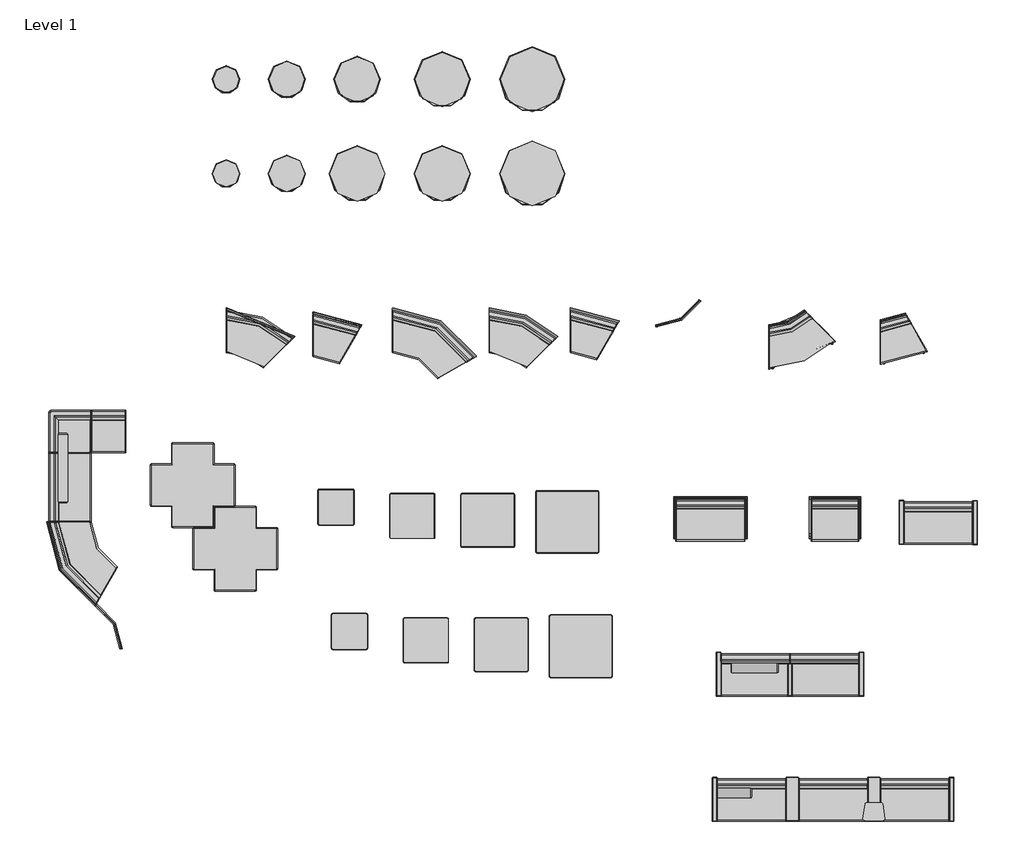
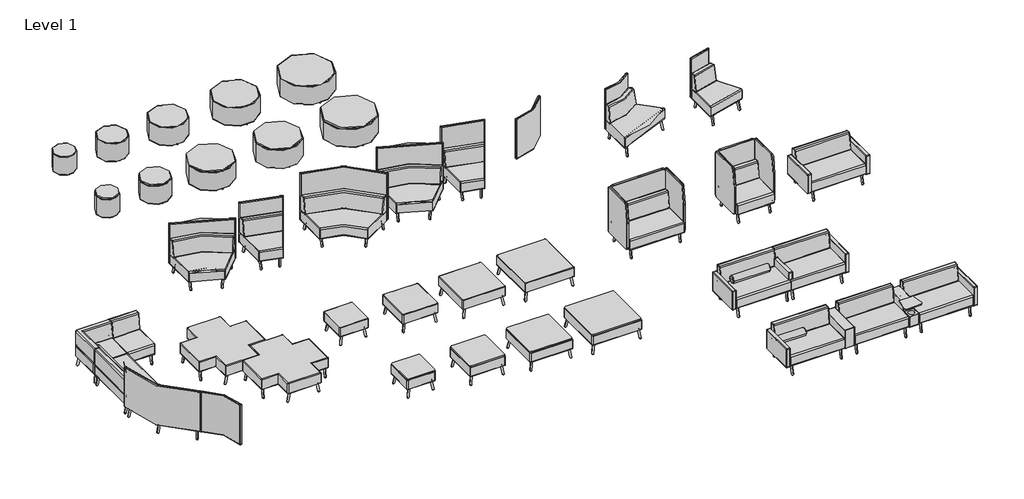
# One storey, incomplete: 61 furniture elements.
"""IFC4 building model written with IfcOpenShell, lengths in millimetres."""

from ifc_helpers import new_model, si_unit, origin, place, context, project, spatial, transform, mapped, element, save
from components import furniture_1200_4850fa3a, furniture_1200_cece1507, furniture_1204_c5cfecb2, furniture_1204_9d9a843b, furniture_1204_0de081f7, furniture_1204_49065b5f, furniture_1212_c9eec584, furniture_1212_14c63a1d, furniture_1213_b8046dc8, furniture_1213_8662ca24, furniture_1214_7c59c296, furniture_1214_cdc57468, furniture_1215_0016b4f5, furniture_1215_f6887f57, furniture_1216_0804f7a7, furniture_1216_b5371cae, furniture_1218_1c4b5840, furniture_1218_6a8e717b, furniture_1219_22_a1547cf1, furniture_1219_30_bc7b73fd, furniture_1219_44_79f136f0, furniture_1222_d6062fc0, furniture_1222_aee030c2, furniture_1222_0b3f2822, furniture_1224_862a0234, furniture_1224_c7c1a432, furniture_1224_18ffa4c7, furniture_1225_1819fbd6, furniture_1225_f7da2884, furniture_1237nl_29a3fee9, furniture_1237nlt_2b8f820f, furniture_1238nl_96f94360, furniture_1238nlt_c17ac9a5, furniture_1240nl_d53e7f1e, furniture_1242nl_7c49e083, furniture_1242nlt_74572b88, furniture_1244nl_43deeb9b, furniture_1244nlt_2f33470e, furniture_1246_e8551991, furniture_1246t_65d32d9d, furniture_1248_87769bc4, furniture_1248t_9be65b18, furniture_1250_eddf934c, furniture_1250t_16d70e3b, furniture_1252_8d231d5f, furniture_1252t_70c4c174, furniture_1259c_09073cc4, furniture_1259l_e881bb67, furniture_1259l_694d9429, furniture_1259r_cefcaaf9, furniture_1260c_ce64365a, furniture_1260tc_43bf5e02, furniture_1270_30_a5e9e99b, furniture_1270_45_ef554d54, furniture_1270_60_1ddb8be8, furniture_1274_30_ad6ad9e1, furniture_1274_45_6280a310, furniture_1274_60_47fa7cde, furniture_1276_30_48e96566, furniture_1276_45_0a47ef88, furniture_1276_60_846af10f

model = new_model("IFC4")

# Units and contexts
model_context = context("Model", 3, world=origin())
ifc_project = project(units=[si_unit("LENGTHUNIT", "METRE", prefix="MILLI")], contexts=[model_context])

# Site, building, storey
site = spatial("IfcSite", under=ifc_project)
building = spatial("IfcBuilding", under=site)
storey = spatial("IfcBuildingStorey", under=building, Name="Level 1", Elevation=0.0)

# Furniture
placement = place(None, origin())
furniture_1200_shape = furniture_1200_4850fa3a(model_context)
furniture_1200_2_shape = furniture_1200_cece1507(model_context)
element("IfcFurniture", 1, ObjectType="Laguna-Modular-Straight-ERG : 1200", at=placement, inside=storey, context=model_context, shape_type="MappedRepresentation", body=[
    mapped(furniture_1200_shape, transform((-6496.0794688, 2142.6277078, 0.0), x_axis=(1.0, 0.0, 0.0), y_axis=(0.0, 1.0, 0.0), z_axis=(0.0, 0.0, 1.0))),
    mapped(furniture_1200_2_shape, transform((-6496.0794688, 2142.6277078, 0.0), x_axis=(1.0, 0.0, 0.0), y_axis=(0.0, 1.0, 0.0), z_axis=(0.0, 0.0, 1.0))),
])
furniture_1204_shape = furniture_1204_c5cfecb2(model_context)
furniture_1204_2_shape = furniture_1204_9d9a843b(model_context)
element("IfcFurniture", 2, ObjectType="Laguna-Modular-Straight-ERG : 1204", at=placement, inside=storey, context=model_context, shape_type="MappedRepresentation", body=[
    mapped(furniture_1204_shape, transform((-10610.4657949, 6236.1257343, 0.0), x_axis=(0.0, 1.0000000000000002, 0.0), y_axis=(-1.0000000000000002, 0.0, 0.0), z_axis=(0.0, 0.0, 1.0))),
    mapped(furniture_1204_2_shape, transform((-10610.4657949, 6236.1257343, 0.0), x_axis=(0.0, 1.0000000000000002, 0.0), y_axis=(-1.0000000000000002, 0.0, 0.0), z_axis=(0.0, 0.0, 1.0))),
])
element("IfcFurniture", 3, ObjectType="Laguna-Modular-Straight-ERG : 1204", at=placement, inside=storey, context=model_context, shape_type="MappedRepresentation", body=[
    mapped(furniture_1204_shape, transform((6655.9151494, 661.610973, 0.0), x_axis=(1.0000000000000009, 0.0, 0.0), y_axis=(0.0, 1.0000000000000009, 0.0), z_axis=(0.0, 0.0, 1.0))),
    mapped(furniture_1204_2_shape, transform((6655.9151494, 661.610973, 0.0), x_axis=(1.0000000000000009, 0.0, 0.0), y_axis=(0.0, 1.0000000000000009, 0.0), z_axis=(0.0, 0.0, 1.0))),
])
element("IfcFurniture", 4, ObjectType="Laguna-Modular-Straight-ERG : 1204", at=placement, inside=storey, context=model_context, shape_type="MappedRepresentation", body=[
    mapped(furniture_1204_shape, transform((3696.9446662, -1796.6686374, 0.0), x_axis=(1.0000000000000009, 0.0, 0.0), y_axis=(0.0, 1.0000000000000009, 0.0), z_axis=(0.0, 0.0, 1.0))),
    mapped(furniture_1204_2_shape, transform((3696.9446662, -1796.6686374, 0.0), x_axis=(1.0000000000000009, 0.0, 0.0), y_axis=(0.0, 1.0000000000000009, 0.0), z_axis=(0.0, 0.0, 1.0))),
])
element("IfcFurniture", 5, ObjectType="Laguna-Modular-Straight-ERG : 1204", at=placement, inside=storey, context=model_context, shape_type="MappedRepresentation", body=[
    mapped(furniture_1204_shape, transform((3633.9936379, -3822.6742419, 0.0), x_axis=(1.0000000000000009, 0.0, 0.0), y_axis=(0.0, 1.0000000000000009, 0.0), z_axis=(0.0, 0.0, 1.0))),
    mapped(furniture_1204_2_shape, transform((3633.9936379, -3822.6742419, 0.0), x_axis=(1.0000000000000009, 0.0, 0.0), y_axis=(0.0, 1.0000000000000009, 0.0), z_axis=(0.0, 0.0, 1.0))),
])
element("IfcFurniture", 6, ObjectType="Laguna-Modular-Straight-ERG : 1204", at=placement, inside=storey, context=model_context, shape_type="MappedRepresentation", body=[
    mapped(furniture_1204_shape, transform((6275.5936379, -3822.6742419, 0.0), x_axis=(1.0000000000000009, 0.0, 0.0), y_axis=(0.0, 1.0000000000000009, 0.0), z_axis=(0.0, 0.0, 1.0))),
    mapped(furniture_1204_2_shape, transform((6275.5936379, -3822.6742419, 0.0), x_axis=(1.0000000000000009, 0.0, 0.0), y_axis=(0.0, 1.0000000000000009, 0.0), z_axis=(0.0, 0.0, 1.0))),
])
furniture_1204_3_shape = furniture_1204_0de081f7(model_context)
furniture_1204_4_shape = furniture_1204_49065b5f(model_context)
element("IfcFurniture", 7, ObjectType="Laguna-Modular-Straight-ERG : 1204", at=placement, inside=storey, context=model_context, shape_type="MappedRepresentation", body=[
    mapped(furniture_1204_3_shape, transform((-3393.3396864, -1796.6686374, 0.0), x_axis=(-1.0000000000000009, 0.0, 0.0), y_axis=(0.0, -1.0000000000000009, 0.0), z_axis=(0.0, 0.0, 1.0))),
    mapped(furniture_1204_4_shape, transform((-3393.3396864, -1796.6686374, 0.0), x_axis=(-1.0000000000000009, 0.0, 0.0), y_axis=(0.0, -1.0000000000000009, 0.0), z_axis=(0.0, 0.0, 1.0))),
])
element("IfcFurniture", 8, ObjectType="Laguna-Modular-Straight-ERG : 1204", at=placement, inside=storey, context=model_context, shape_type="MappedRepresentation", body=[
    mapped(furniture_1204_3_shape, transform((-3253.0907147, -3822.6742419, 0.0), x_axis=(-1.0000000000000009, 0.0, 0.0), y_axis=(0.0, -1.0000000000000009, 0.0), z_axis=(0.0, 0.0, 1.0))),
    mapped(furniture_1204_4_shape, transform((-3253.0907147, -3822.6742419, 0.0), x_axis=(-1.0000000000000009, 0.0, 0.0), y_axis=(0.0, -1.0000000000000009, 0.0), z_axis=(0.0, 0.0, 1.0))),
])
furniture_1212_shape = furniture_1212_c9eec584(model_context)
furniture_1212_2_shape = furniture_1212_14c63a1d(model_context)
element("IfcFurniture", 9, ObjectType="Laguna-Modular-Inside_Curve-ERG : 1212", at=placement, inside=storey, context=model_context, shape_type="MappedRepresentation", body=[
    mapped(furniture_1212_shape, transform((-2736.6587699, 3473.9324133, 0.0), x_axis=(1.0, 0.0, 0.0), y_axis=(0.0, 1.0, 0.0), z_axis=(0.0, 0.0, 1.0))),
    mapped(furniture_1212_2_shape, transform((-2736.6587699, 3473.9324133, 0.0), x_axis=(1.0, 0.0, 0.0), y_axis=(0.0, 1.0, 0.0), z_axis=(0.0, 0.0, 1.0))),
])
element("IfcFurniture", 10, ObjectType="Laguna-Modular-Inside_Curve-ERG : 1212", at=placement, inside=storey, context=model_context, shape_type="MappedRepresentation", body=[
    mapped(furniture_1212_shape, transform((1428.9412301, 3538.6376389, 0.0), x_axis=(1.0, 0.0, 0.0), y_axis=(0.0, 1.0, 0.0), z_axis=(0.0, 0.0, 1.0))),
    mapped(furniture_1212_2_shape, transform((1428.9412301, 3538.6376389, 0.0), x_axis=(1.0, 0.0, 0.0), y_axis=(0.0, 1.0, 0.0), z_axis=(0.0, 0.0, 1.0))),
])
furniture_1213_shape = furniture_1213_b8046dc8(model_context)
furniture_1213_2_shape = furniture_1213_8662ca24(model_context)
element("IfcFurniture", 11, ObjectType="Laguna-Modular-Outside_Curve-ERG : 1213", at=placement, inside=storey, context=model_context, shape_type="MappedRepresentation", body=[
    mapped(furniture_1213_shape, transform((6316.4531196, 3807.3643246, 0.0), x_axis=(1.0000000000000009, 0.0, 0.0), y_axis=(0.0, 1.0000000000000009, 0.0), z_axis=(0.0, 0.0, 1.0))),
    mapped(furniture_1213_2_shape, transform((6316.4531196, 3807.3643246, 0.0), x_axis=(1.0000000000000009, 0.0, 0.0), y_axis=(0.0, 1.0000000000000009, 0.0), z_axis=(0.0, 0.0, 1.0))),
])
furniture_1214_shape = furniture_1214_7c59c296(model_context)
furniture_1214_2_shape = furniture_1214_cdc57468(model_context)
element("IfcFurniture", 12, ObjectType="Laguna-Modular-Inside_Curve-ERG : 1214", at=placement, inside=storey, context=model_context, shape_type="MappedRepresentation", body=[
    mapped(furniture_1214_shape, transform((-4140.5267063, 3538.6376389, 0.0), x_axis=(1.0, 0.0, 0.0), y_axis=(0.0, 1.0, 0.0), z_axis=(0.0, 0.0, 1.0))),
    mapped(furniture_1214_2_shape, transform((-4140.5267063, 3538.6376389, 0.0), x_axis=(1.0, 0.0, 0.0), y_axis=(0.0, 1.0, 0.0), z_axis=(0.0, 0.0, 1.0))),
])
element("IfcFurniture", 13, ObjectType="Laguna-Modular-Inside_Curve-ERG : 1214", at=placement, inside=storey, context=model_context, shape_type="MappedRepresentation", body=[
    mapped(furniture_1214_shape, transform((114.0429788, 3538.6376389, 0.0), x_axis=(1.0, 0.0, 0.0), y_axis=(0.0, 1.0, 0.0), z_axis=(0.0, 0.0, 1.0))),
    mapped(furniture_1214_2_shape, transform((114.0429788, 3538.6376389, 0.0), x_axis=(1.0, 0.0, 0.0), y_axis=(0.0, 1.0, 0.0), z_axis=(0.0, 0.0, 1.0))),
])
furniture_1215_shape = furniture_1215_0016b4f5(model_context)
furniture_1215_2_shape = furniture_1215_f6887f57(model_context)
element("IfcFurniture", 14, ObjectType="Laguna-Modular-Outside_Curve-ERG : 1215", at=placement, inside=storey, context=model_context, shape_type="MappedRepresentation", body=[
    mapped(furniture_1215_shape, transform((4513.0531196, 3731.1643246, 0.0), x_axis=(1.0000000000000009, 0.0, 0.0), y_axis=(0.0, 1.0000000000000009, 0.0), z_axis=(0.0, 0.0, 1.0))),
    mapped(furniture_1215_2_shape, transform((4513.0531196, 3731.1643246, 0.0), x_axis=(1.0000000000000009, 0.0, 0.0), y_axis=(0.0, 1.0000000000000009, 0.0), z_axis=(0.0, 0.0, 1.0))),
])
furniture_1216_shape = furniture_1216_0804f7a7(model_context)
furniture_1216_2_shape = furniture_1216_b5371cae(model_context)
element("IfcFurniture", 15, ObjectType="Laguna-Modular-Inside_Curve-ERG : 1216", at=placement, inside=storey, context=model_context, shape_type="MappedRepresentation", body=[
    mapped(furniture_1216_shape, transform((-14533.6269084, 3927.9817824, 0.0), x_axis=(-0.86602540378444, 0.5, 0.0), y_axis=(-0.5, -0.86602540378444, 0.0), z_axis=(0.0, 0.0, 1.0))),
    mapped(furniture_1216_2_shape, transform((-14533.6269084, 3927.9817824, 0.0), x_axis=(-0.86602540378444, 0.5, 0.0), y_axis=(-0.5, -0.86602540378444, 0.0), z_axis=(0.0, 0.0, 1.0))),
])
element("IfcFurniture", 16, ObjectType="Laguna-Modular-Inside_Curve-ERG : 1216", at=placement, inside=storey, context=model_context, shape_type="MappedRepresentation", body=[
    mapped(furniture_1216_shape, transform((-1450.6779228, 3538.6376389, 0.0), x_axis=(1.0, 0.0, 0.0), y_axis=(0.0, 1.0, 0.0), z_axis=(0.0, 0.0, 1.0))),
    mapped(furniture_1216_2_shape, transform((-1450.6779228, 3538.6376389, 0.0), x_axis=(1.0, 0.0, 0.0), y_axis=(0.0, 1.0, 0.0), z_axis=(0.0, 0.0, 1.0))),
])
furniture_1218_shape = furniture_1218_1c4b5840(model_context)
furniture_1218_2_shape = furniture_1218_6a8e717b(model_context)
element("IfcFurniture", 17, ObjectType="Laguna-Modular-Corner_Unit-ERG : 1218", at=placement, inside=storey, context=model_context, shape_type="MappedRepresentation", body=[
    mapped(furniture_1218_shape, transform((-7181.8794688, 2142.6277078, 0.0), x_axis=(1.0, 0.0, 0.0), y_axis=(0.0, 1.0, 0.0), z_axis=(0.0, 0.0, 1.0))),
    mapped(furniture_1218_2_shape, transform((-7181.8794688, 2142.6277078, 0.0), x_axis=(1.0, 0.0, 0.0), y_axis=(0.0, 1.0, 0.0), z_axis=(0.0, 0.0, 1.0))),
])
furniture_1219_22_shape = furniture_1219_22_a1547cf1(model_context)
element("IfcFurniture", 18, ObjectType="Laguna-Bolster-Pillow-ERG : 1219-22", at=placement, inside=storey, context=model_context, shape_type="MappedRepresentation", body=[
    mapped(furniture_1219_22_shape, transform((3633.9936379, -3822.6742419, 0.0), x_axis=(1.0000000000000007, 0.0, 0.0), y_axis=(0.0, 1.0000000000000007, 0.0), z_axis=(0.0, 0.0, 1.0))),
])
furniture_1219_30_shape = furniture_1219_30_bc7b73fd(model_context)
element("IfcFurniture", 19, ObjectType="Laguna-Bolster-Pillow-ERG : 1219-30", at=placement, inside=storey, context=model_context, shape_type="MappedRepresentation", body=[
    mapped(furniture_1219_30_shape, transform((3863.2422023, -1796.6686374, 0.0), x_axis=(1.0000000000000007, 0.0, 0.0), y_axis=(0.0, 1.0000000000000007, 0.0), z_axis=(0.0, 0.0, 1.0))),
])
furniture_1219_44_shape = furniture_1219_44_79f136f0(model_context)
element("IfcFurniture", 20, ObjectType="Laguna-Bolster-Pillow-ERG : 1219-44", at=placement, inside=storey, context=model_context, shape_type="MappedRepresentation", body=[
    mapped(furniture_1219_44_shape, transform((-10610.4657949, 6548.599461, 0.0), x_axis=(0.0, 1.0000000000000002, 0.0), y_axis=(-1.0000000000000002, 0.0, 0.0), z_axis=(0.0, 0.0, 1.0))),
])
furniture_1222_shape = furniture_1222_d6062fc0(model_context)
furniture_1222_2_shape = furniture_1222_aee030c2(model_context)
furniture_1222_3_shape = furniture_1222_0b3f2822(model_context)
element("IfcFurniture", 21, ObjectType="Laguna-Modular-Hideout-ERG : 1222", at=placement, inside=storey, context=model_context, shape_type="MappedRepresentation", body=[
    mapped(furniture_1222_shape, transform((5124.1720291, 706.8316697, 0.0), x_axis=(1.0, 0.0, 0.0), y_axis=(0.0, 1.0, 0.0), z_axis=(0.0, 0.0, 1.0))),
    mapped(furniture_1222_2_shape, transform((5124.1720291, 706.8316697, 0.0), x_axis=(1.0, 0.0, 0.0), y_axis=(0.0, 1.0, 0.0), z_axis=(0.0, 0.0, 1.0))),
    mapped(furniture_1222_3_shape, transform((5124.1720291, 706.8316697, 0.0), x_axis=(1.0, 0.0, 0.0), y_axis=(0.0, 1.0, 0.0), z_axis=(0.0, 0.0, 1.0))),
])
furniture_1224_shape = furniture_1224_862a0234(model_context)
furniture_1224_2_shape = furniture_1224_c7c1a432(model_context)
furniture_1224_3_shape = furniture_1224_18ffa4c7(model_context)
element("IfcFurniture", 22, ObjectType="Laguna-Modular-Hideout-ERG : 1224", at=placement, inside=storey, context=model_context, shape_type="MappedRepresentation", body=[
    mapped(furniture_1224_shape, transform((2929.6779026, 706.8316697, 0.0), x_axis=(1.0, 0.0, 0.0), y_axis=(0.0, 1.0, 0.0), z_axis=(0.0, 0.0, 1.0))),
    mapped(furniture_1224_2_shape, transform((2929.6779026, 706.8316697, 0.0), x_axis=(1.0, 0.0, 0.0), y_axis=(0.0, 1.0, 0.0), z_axis=(0.0, 0.0, 1.0))),
    mapped(furniture_1224_3_shape, transform((2929.6779026, 706.8316697, 0.0), x_axis=(1.0, 0.0, 0.0), y_axis=(0.0, 1.0, 0.0), z_axis=(0.0, 0.0, 1.0))),
])
furniture_1225_shape = furniture_1225_1819fbd6(model_context)
furniture_1225_2_shape = furniture_1225_f7da2884(model_context)
element("IfcFurniture", 23, ObjectType="Laguna-Quattro_Backless-ERG : 1225", at=placement, inside=storey, context=model_context, shape_type="MappedRepresentation", body=[
    mapped(furniture_1225_shape, transform((-5367.2292845, 1391.8487351, 0.0), x_axis=(1.0, 0.0, 0.0), y_axis=(0.0, 1.0, 0.0), z_axis=(0.0, 0.0, 1.0))),
    mapped(furniture_1225_2_shape, transform((-5367.2292845, 1391.8487351, 0.0), x_axis=(1.0, 0.0, 0.0), y_axis=(0.0, 1.0, 0.0), z_axis=(0.0, 0.0, 1.0))),
])
element("IfcFurniture", 24, ObjectType="Laguna-Quattro_Backless-ERG : 1225", at=placement, inside=storey, context=model_context, shape_type="MappedRepresentation", body=[
    mapped(furniture_1225_shape, transform((-4681.4292845, 363.1487351, 0.0), x_axis=(1.0, 0.0, 0.0), y_axis=(0.0, 1.0, 0.0), z_axis=(0.0, 0.0, 1.0))),
    mapped(furniture_1225_2_shape, transform((-4681.4292845, 363.1487351, 0.0), x_axis=(1.0, 0.0, 0.0), y_axis=(0.0, 1.0, 0.0), z_axis=(0.0, 0.0, 1.0))),
])
furniture_1237nl_shape = furniture_1237nl_29a3fee9(model_context)
element("IfcFurniture", 25, ObjectType="Laguna-Round_Ottomans-No_Legs-ERG : 1237NL", at=placement, inside=storey, context=model_context, shape_type="MappedRepresentation", body=[
    mapped(furniture_1237nl_shape, transform((-4312.710601, 7499.813913, 0.0), x_axis=(1.0, 0.0, 0.0), y_axis=(0.0, 1.0, 0.0), z_axis=(0.0, 0.0, 1.0))),
])
furniture_1237nlt_shape = furniture_1237nlt_2b8f820f(model_context)
element("IfcFurniture", 26, ObjectType="Laguna-Round_Ottomans-No_Legs-ERG : 1237NLT", at=placement, inside=storey, context=model_context, shape_type="MappedRepresentation", body=[
    mapped(furniture_1237nlt_shape, transform((-4312.710601, 5975.813913, 0.0), x_axis=(1.0, 0.0, 0.0), y_axis=(0.0, 1.0, 0.0), z_axis=(0.0, 0.0, 1.0))),
])
furniture_1238nl_shape = furniture_1238nl_96f94360(model_context)
element("IfcFurniture", 27, ObjectType="Laguna-Round_Ottomans-No_Legs-ERG : 1238NL", at=placement, inside=storey, context=model_context, shape_type="MappedRepresentation", body=[
    mapped(furniture_1238nl_shape, transform((-3330.9690679, 7499.813913, 0.0), x_axis=(1.0, 0.0, 0.0), y_axis=(0.0, 1.0, 0.0), z_axis=(0.0, 0.0, 1.0))),
])
furniture_1238nlt_shape = furniture_1238nlt_c17ac9a5(model_context)
element("IfcFurniture", 28, ObjectType="Laguna-Round_Ottomans-No_Legs-ERG : 1238NLT", at=placement, inside=storey, context=model_context, shape_type="MappedRepresentation", body=[
    mapped(furniture_1238nlt_shape, transform((-3330.9690679, 5975.813913, 0.0), x_axis=(1.0, 0.0, 0.0), y_axis=(0.0, 1.0, 0.0), z_axis=(0.0, 0.0, 1.0))),
])
furniture_1240nl_shape = furniture_1240nl_d53e7f1e(model_context)
element("IfcFurniture", 29, ObjectType="Laguna-Round_Ottomans-No_Legs-ERG : 1240NL", at=placement, inside=storey, context=model_context, shape_type="MappedRepresentation", body=[
    mapped(furniture_1240nl_shape, transform((-2192.5056926, 7499.813913, 0.0), x_axis=(1.0, 0.0, 0.0), y_axis=(0.0, 1.0, 0.0), z_axis=(0.0, 0.0, 1.0))),
])
furniture_1242nl_shape = furniture_1242nl_7c49e083(model_context)
element("IfcFurniture", 30, ObjectType="Laguna-Round_Ottomans-No_Legs-ERG : 1242NL", at=placement, inside=storey, context=model_context, shape_type="MappedRepresentation", body=[
    mapped(furniture_1242nl_shape, transform((-815.751143, 7499.813913, 0.0), x_axis=(1.0, 0.0, 0.0), y_axis=(0.0, 1.0, 0.0), z_axis=(0.0, 0.0, 1.0))),
])
furniture_1242nlt_shape = furniture_1242nlt_74572b88(model_context)
element("IfcFurniture", 31, ObjectType="Laguna-Round_Ottomans-No_Legs-ERG : 1242NLT", at=placement, inside=storey, context=model_context, shape_type="MappedRepresentation", body=[
    mapped(furniture_1242nlt_shape, transform((-2192.5056926, 5975.813913, 0.0), x_axis=(1.0, 0.0, 0.0), y_axis=(0.0, 1.0, 0.0), z_axis=(0.0, 0.0, 1.0))),
])
element("IfcFurniture", 32, ObjectType="Laguna-Round_Ottomans-No_Legs-ERG : 1242NLT", at=placement, inside=storey, context=model_context, shape_type="MappedRepresentation", body=[
    mapped(furniture_1242nlt_shape, transform((-815.751143, 5975.813913, 0.0), x_axis=(1.0, 0.0, 0.0), y_axis=(0.0, 1.0, 0.0), z_axis=(0.0, 0.0, 1.0))),
])
furniture_1244nl_shape = furniture_1244nl_43deeb9b(model_context)
element("IfcFurniture", 33, ObjectType="Laguna-Round_Ottomans-No_Legs-ERG : 1244NL", at=placement, inside=storey, context=model_context, shape_type="MappedRepresentation", body=[
    mapped(furniture_1244nl_shape, transform((643.1663492, 7499.813913, 0.0), x_axis=(1.0, 0.0, 0.0), y_axis=(0.0, 1.0, 0.0), z_axis=(0.0, 0.0, 1.0))),
])
furniture_1244nlt_shape = furniture_1244nlt_2f33470e(model_context)
element("IfcFurniture", 34, ObjectType="Laguna-Round_Ottomans-No_Legs-ERG : 1244NLT", at=placement, inside=storey, context=model_context, shape_type="MappedRepresentation", body=[
    mapped(furniture_1244nlt_shape, transform((643.1663492, 5975.813913, 0.0), x_axis=(1.0, 0.0, 0.0), y_axis=(0.0, 1.0, 0.0), z_axis=(0.0, 0.0, 1.0))),
])
furniture_1246_shape = furniture_1246_e8551991(model_context)
element("IfcFurniture", 35, ObjectType="Laguna-Square_Ottomans-With_Legs-ERG : 1246", at=placement, inside=storey, context=model_context, shape_type="MappedRepresentation", body=[
    mapped(furniture_1246_shape, transform((-2839.361305, 881.0897472, 0.0), x_axis=(1.0, 0.0, 0.0), y_axis=(0.0, 1.0, 0.0), z_axis=(0.0, 0.0, 1.0))),
])
furniture_1246t_shape = furniture_1246t_65d32d9d(model_context)
element("IfcFurniture", 36, ObjectType="Laguna-Square_Ottomans-With_Legs-ERG : 1246T", at=placement, inside=storey, context=model_context, shape_type="MappedRepresentation", body=[
    mapped(furniture_1246t_shape, transform((-2620.7018499, -1131.8510748, 0.0), x_axis=(1.0, 0.0, 0.0), y_axis=(0.0, 1.0, 0.0), z_axis=(0.0, 0.0, 1.0))),
])
furniture_1248_shape = furniture_1248_87769bc4(model_context)
element("IfcFurniture", 37, ObjectType="Laguna-Square_Ottomans-With_Legs-ERG : 1248", at=placement, inside=storey, context=model_context, shape_type="MappedRepresentation", body=[
    mapped(furniture_1248_shape, transform((-1603.1969102, 739.2447986, 0.0), x_axis=(1.0, 0.0, 0.0), y_axis=(0.0, 1.0, 0.0), z_axis=(0.0, 0.0, 1.0))),
])
furniture_1248t_shape = furniture_1248t_9be65b18(model_context)
element("IfcFurniture", 38, ObjectType="Laguna-Square_Ottomans-With_Legs-ERG : 1248T", at=placement, inside=storey, context=model_context, shape_type="MappedRepresentation", body=[
    mapped(furniture_1248t_shape, transform((-1384.5374552, -1273.6960234, 0.0), x_axis=(1.0, 0.0, 0.0), y_axis=(0.0, 1.0, 0.0), z_axis=(0.0, 0.0, 1.0))),
])
furniture_1250_shape = furniture_1250_eddf934c(model_context)
element("IfcFurniture", 39, ObjectType="Laguna-Square_Ottomans-With_Legs-ERG : 1250", at=placement, inside=storey, context=model_context, shape_type="MappedRepresentation", body=[
    mapped(furniture_1250_shape, transform((-381.3014057, 665.927899, 0.0), x_axis=(1.0, 0.0, 0.0), y_axis=(0.0, 1.0, 0.0), z_axis=(0.0, 0.0, 1.0))),
])
furniture_1250t_shape = furniture_1250t_16d70e3b(model_context)
element("IfcFurniture", 40, ObjectType="Laguna-Square_Ottomans-With_Legs-ERG : 1250T", at=placement, inside=storey, context=model_context, shape_type="MappedRepresentation", body=[
    mapped(furniture_1250t_shape, transform((-162.6419507, -1347.012923, 0.0), x_axis=(1.0, 0.0, 0.0), y_axis=(0.0, 1.0, 0.0), z_axis=(0.0, 0.0, 1.0))),
])
furniture_1252_shape = furniture_1252_8d231d5f(model_context)
element("IfcFurniture", 41, ObjectType="Laguna-Square_Ottomans-With_Legs-ERG : 1252", at=placement, inside=storey, context=model_context, shape_type="MappedRepresentation", body=[
    mapped(furniture_1252_shape, transform((905.8852614, 642.3641606, 0.0), x_axis=(1.0, 0.0, 0.0), y_axis=(0.0, 1.0, 0.0), z_axis=(0.0, 0.0, 1.0))),
])
furniture_1252t_shape = furniture_1252t_70c4c174(model_context)
element("IfcFurniture", 42, ObjectType="Laguna-Square_Ottomans-With_Legs-ERG : 1252T", at=placement, inside=storey, context=model_context, shape_type="MappedRepresentation", body=[
    mapped(furniture_1252t_shape, transform((1124.5447164, -1370.5766614, 0.0), x_axis=(1.0, 0.0, 0.0), y_axis=(0.0, 1.0, 0.0), z_axis=(0.0, 0.0, 1.0))),
])
furniture_1259c_shape = furniture_1259c_09073cc4(model_context)
element("IfcFurniture", 43, ObjectType="Laguna-Arm-Slim-ERG : 1259C", at=placement, inside=storey, context=model_context, shape_type="MappedRepresentation", body=[
    mapped(furniture_1259c_shape, transform((-4510.9396864, -1796.6686374, 0.0), x_axis=(-1.0, 0.0, 0.0), y_axis=(0.0, -1.0, 0.0), z_axis=(0.0, 0.0, 1.0))),
])
furniture_1259l_shape = furniture_1259l_e881bb67(model_context)
element("IfcFurniture", 44, ObjectType="Laguna-Arm-Slim-ERG : 1259L", at=placement, inside=storey, context=model_context, shape_type="MappedRepresentation", body=[
    mapped(furniture_1259l_shape, transform((6655.9151494, 661.610973, 0.0), x_axis=(1.0, 0.0, 0.0), y_axis=(0.0, 1.0, 0.0), z_axis=(0.0, 0.0, 1.0))),
])
element("IfcFurniture", 45, ObjectType="Laguna-Arm-Slim-ERG : 1259L", at=placement, inside=storey, context=model_context, shape_type="MappedRepresentation", body=[
    mapped(furniture_1259l_shape, transform((3696.9446662, -1796.6686374, 0.0), x_axis=(1.0, 0.0, 0.0), y_axis=(0.0, 1.0, 0.0), z_axis=(0.0, 0.0, 1.0))),
])
element("IfcFurniture", 46, ObjectType="Laguna-Arm-Slim-ERG : 1259L", at=placement, inside=storey, context=model_context, shape_type="MappedRepresentation", body=[
    mapped(furniture_1259l_shape, transform((3633.9936379, -3822.6742419, 0.0), x_axis=(1.0, 0.0, 0.0), y_axis=(0.0, 1.0, 0.0), z_axis=(0.0, 0.0, 1.0))),
])
furniture_1259l_2_shape = furniture_1259l_694d9429(model_context)
element("IfcFurniture", 47, ObjectType="Laguna-Arm-Slim-ERG : 1259L", at=placement, inside=storey, context=model_context, shape_type="MappedRepresentation", body=[
    mapped(furniture_1259l_2_shape, transform((-1932.2907147, -3822.6742419, 0.0), x_axis=(-1.0, 0.0, 0.0), y_axis=(0.0, -1.0, 0.0), z_axis=(0.0, 0.0, 1.0))),
])
furniture_1259r_shape = furniture_1259r_cefcaaf9(model_context)
element("IfcFurniture", 48, ObjectType="Laguna-Arm-Slim-ERG : 1259R", at=placement, inside=storey, context=model_context, shape_type="MappedRepresentation", body=[
    mapped(furniture_1259r_shape, transform((7773.5151494, 655.260973, 0.0), x_axis=(1.0, 0.0, 0.0), y_axis=(0.0, 1.0, 0.0), z_axis=(0.0, 0.0, 1.0))),
])
element("IfcFurniture", 49, ObjectType="Laguna-Arm-Slim-ERG : 1259R", at=placement, inside=storey, context=model_context, shape_type="MappedRepresentation", body=[
    mapped(furniture_1259r_shape, transform((5932.1446662, -1796.6686374, 0.0), x_axis=(1.0, 0.0, 0.0), y_axis=(0.0, 1.0, 0.0), z_axis=(0.0, 0.0, 1.0))),
])
furniture_1260c_shape = furniture_1260c_ce64365a(model_context)
element("IfcFurniture", 50, ObjectType="Laguna-Box_Arm-ERG : 1260C", at=placement, inside=storey, context=model_context, shape_type="MappedRepresentation", body=[
    mapped(furniture_1260c_shape, transform((4954.7936379, -3822.6742419, 0.0), x_axis=(1.0, 0.0, 0.0), y_axis=(0.0, 1.0, 0.0), z_axis=(0.0, 0.0, 1.0))),
])
furniture_1260tc_shape = furniture_1260tc_43bf5e02(model_context)
element("IfcFurniture", 51, ObjectType="Laguna-Box_Arm-ERG : 1260TC", at=placement, inside=storey, context=model_context, shape_type="MappedRepresentation", body=[
    mapped(furniture_1260tc_shape, transform((6275.5936379, -3822.6742419, 0.0), x_axis=(1.0, 0.0, 0.0), y_axis=(0.0, 1.0, 0.0), z_axis=(0.0, 0.0, 1.0))),
])
furniture_1270_30_shape = furniture_1270_30_a5e9e99b(model_context)
element("IfcFurniture", 52, ObjectType="Laguna-Panel-Curve_Inside-ERG : 1270/30", at=placement, inside=storey, context=model_context, shape_type="MappedRepresentation", body=[
    mapped(furniture_1270_30_shape, transform((1428.9412301, 3538.6376389, 0.0), x_axis=(1.0, 0.0, 0.0), y_axis=(0.0, 1.0, 0.0), z_axis=(0.0, 0.0, 1.0))),
])
furniture_1270_45_shape = furniture_1270_45_ef554d54(model_context)
element("IfcFurniture", 53, ObjectType="Laguna-Panel-Curve_Inside-ERG : 1270/45", at=placement, inside=storey, context=model_context, shape_type="MappedRepresentation", body=[
    mapped(furniture_1270_45_shape, transform((114.0429788, 3538.6376389, 0.0), x_axis=(1.0, 0.0, 0.0), y_axis=(0.0, 1.0, 0.0), z_axis=(0.0, 0.0, 1.0))),
])
furniture_1270_60_shape = furniture_1270_60_1ddb8be8(model_context)
element("IfcFurniture", 54, ObjectType="Laguna-Panel-Curve_Inside-ERG : 1270/60", at=placement, inside=storey, context=model_context, shape_type="MappedRepresentation", body=[
    mapped(furniture_1270_60_shape, transform((-1450.6779228, 3538.6376389, 0.0), x_axis=(1.0, 0.0, 0.0), y_axis=(0.0, 1.0, 0.0), z_axis=(0.0, 0.0, 1.0))),
])
furniture_1274_30_shape = furniture_1274_30_ad6ad9e1(model_context)
element("IfcFurniture", 55, ObjectType="Laguna-Panel-Curve_Inside-ERG : 1274/30", at=placement, inside=storey, context=model_context, shape_type="MappedRepresentation", body=[
    mapped(furniture_1274_30_shape, transform((-2736.6587699, 3473.9324133, 0.0), x_axis=(1.0, 0.0, 0.0), y_axis=(0.0, 1.0, 0.0), z_axis=(0.0, 0.0, 1.0))),
])
furniture_1274_45_shape = furniture_1274_45_6280a310(model_context)
element("IfcFurniture", 56, ObjectType="Laguna-Panel-Curve_Inside-ERG : 1274/45", at=placement, inside=storey, context=model_context, shape_type="MappedRepresentation", body=[
    mapped(furniture_1274_45_shape, transform((-4140.5267063, 3538.6376389, 0.0), x_axis=(1.0, 0.0, 0.0), y_axis=(0.0, 1.0, 0.0), z_axis=(0.0, 0.0, 1.0))),
])
furniture_1274_60_shape = furniture_1274_60_47fa7cde(model_context)
element("IfcFurniture", 57, ObjectType="Laguna-Panel-Curve_Inside-ERG : 1274/60", at=placement, inside=storey, context=model_context, shape_type="MappedRepresentation", body=[
    mapped(furniture_1274_60_shape, transform((-14533.6269084, 3927.9817824, 0.0), x_axis=(-0.866025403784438, 0.5000000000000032, 0.0), y_axis=(-0.5000000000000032, -0.866025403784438, 0.0), z_axis=(0.0, 0.0, 1.0))),
])
furniture_1276_30_shape = furniture_1276_30_48e96566(model_context)
element("IfcFurniture", 58, ObjectType="Laguna-Panel-Curve_Outside-ERG : 1276/30", at=placement, inside=storey, context=model_context, shape_type="MappedRepresentation", body=[
    mapped(furniture_1276_30_shape, transform((6316.4531196, 3807.3643246, 0.0), x_axis=(1.0000000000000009, 0.0, 0.0), y_axis=(0.0, 1.0000000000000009, 0.0), z_axis=(0.0, 0.0, 1.0))),
])
furniture_1276_45_shape = furniture_1276_45_0a47ef88(model_context)
element("IfcFurniture", 59, ObjectType="Laguna-Panel-Curve_Outside-ERG : 1276/45", at=placement, inside=storey, context=model_context, shape_type="MappedRepresentation", body=[
    mapped(furniture_1276_45_shape, transform((4513.0531196, 3731.1643246, 0.0), x_axis=(1.0000000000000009, 0.0, 0.0), y_axis=(0.0, 1.0000000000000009, 0.0), z_axis=(0.0, 0.0, 1.0))),
])
furniture_1276_60_shape = furniture_1276_60_846af10f(model_context)
element("IfcFurniture", 60, ObjectType="Laguna-Panel-Curve_Outside-ERG : 1276/60", at=placement, inside=storey, context=model_context, shape_type="MappedRepresentation", body=[
    mapped(furniture_1276_60_shape, transform((-9659.0430412, 4221.4546049, 0.0), x_axis=(0.0, 1.0000000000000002, 0.0), y_axis=(-1.0000000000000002, 0.0, 0.0), z_axis=(0.0, 0.0, 1.0))),
])
element("IfcFurniture", 61, ObjectType="Laguna-Panel-Curve_Outside-ERG : 1276/60", at=placement, inside=storey, context=model_context, shape_type="MappedRepresentation", body=[
    mapped(furniture_1276_60_shape, transform((2684.2531196, 3731.1643246, 0.0), x_axis=(1.0000000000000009, 0.0, 0.0), y_axis=(0.0, 1.0000000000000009, 0.0), z_axis=(0.0, 0.0, 1.0))),
])

save(model, "model.ifc")
